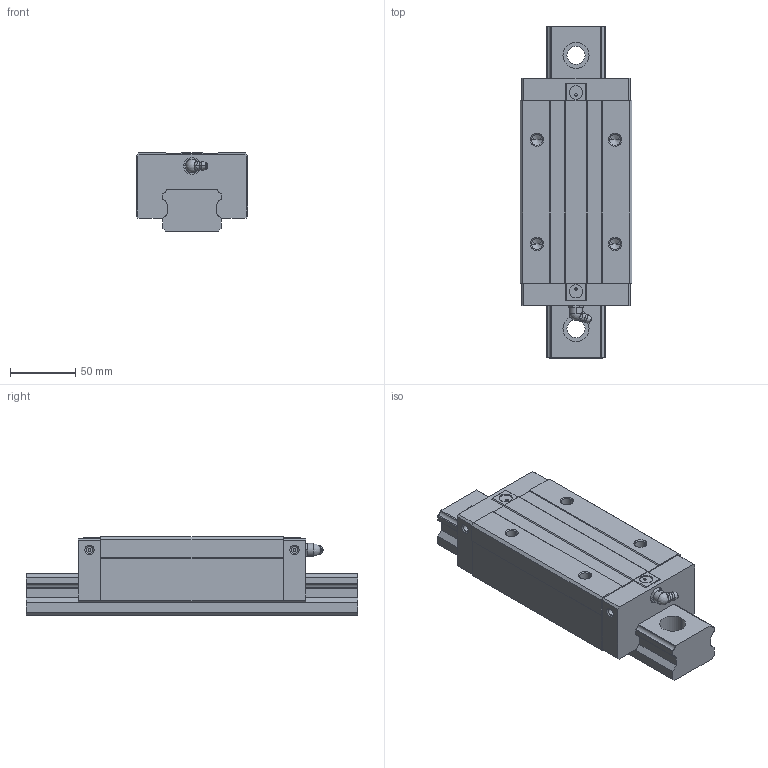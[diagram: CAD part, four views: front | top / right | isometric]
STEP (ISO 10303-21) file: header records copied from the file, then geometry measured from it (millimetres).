
FILE_DESCRIPTION((''),'1');
FILE_NAME(' ',' ',(''),(''),'ACIS Interop R16','Kubotek KeyCreator V6.5.2 (0407)',' ');
FILE_SCHEMA(('CONFIG_CONTROL_DESIGN'));
Length unit declared in the file: millimetre
Products named in the file (3): 1; 2; 3
Bounding box: 86 x 255 x 60 mm (x, y, z)
Volume: 896419 mm3; surface area: 111547.2 mm2
Topology: 3 solids, 3 shells, 225 faces, 582 edges, 377 vertices
Faces by surface type: plane 110, cylinder 74, cone 26, torus 10, sphere 3, bspline 2
Entity records: 7116 total; most frequent: CARTESIAN_POINT 1367, DIRECTION 1216, ORIENTED_EDGE 1144, EDGE_CURVE 572, AXIS2_PLACEMENT_3D 442, VERTEX_POINT 377, LINE 332, VECTOR 332
